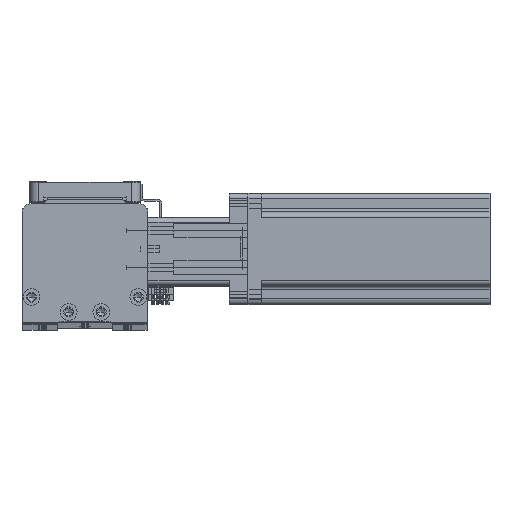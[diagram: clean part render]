
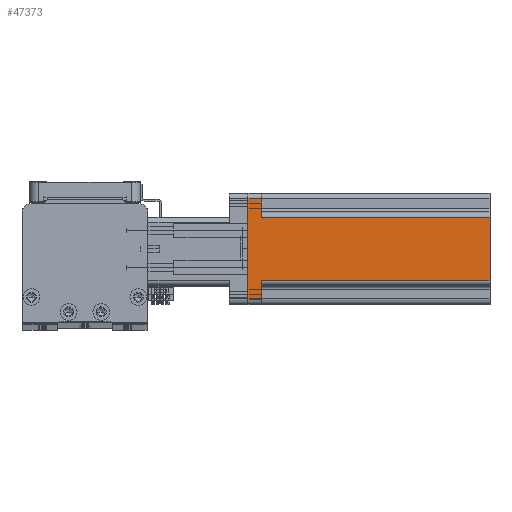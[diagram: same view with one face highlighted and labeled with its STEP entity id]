
A CAD part, top view. The second image highlights one B-rep face of the part: STEP entity #47373.
In plain terms, the highlighted planar face has unit normal (0, 0, 1) as drawn and (1, 0, 0) by its records, which use the part's own axes.
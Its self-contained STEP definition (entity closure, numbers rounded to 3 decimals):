
#18 = CARTESIAN_POINT ( 'NONE',  ( 30., 27., 7.5 ) ) ;
#970 = DIRECTION ( 'NONE',  ( 0., 0., 1. ) ) ;
#2747 = DIRECTION ( 'NONE',  ( 0., 0., -1. ) ) ;
#2847 = CARTESIAN_POINT ( 'NONE',  ( 30., 17., 7.5 ) ) ;
#3506 = CARTESIAN_POINT ( 'NONE',  ( 30., 17., 130.7 ) ) ;
#6947 = EDGE_CURVE ( 'NONE', #43163, #12546, #46088, .T. ) ;
#7365 = CARTESIAN_POINT ( 'NONE',  ( 30., -30., 7.5 ) ) ;
#7518 = CARTESIAN_POINT ( 'NONE',  ( 30., -30., 130.7 ) ) ;
#7696 = DIRECTION ( 'NONE',  ( 0., 1., 0. ) ) ;
#8213 = CARTESIAN_POINT ( 'NONE',  ( 30., -30., 130.7 ) ) ;
#9951 = CARTESIAN_POINT ( 'NONE',  ( 30., 27., 130.7 ) ) ;
#10870 = VECTOR ( 'NONE', #21778, 1000. ) ;
#12473 = DIRECTION ( 'NONE',  ( 0., 0., 1. ) ) ;
#12487 = VECTOR ( 'NONE', #7696, 1000. ) ;
#12546 = VERTEX_POINT ( 'NONE', #3506 ) ;
#13423 = DIRECTION ( 'NONE',  ( 0., 1., 0. ) ) ;
#13831 = VERTEX_POINT ( 'NONE', #2847 ) ;
#14289 = AXIS2_PLACEMENT_3D ( 'NONE', #8213, #37796, #12473 ) ;
#14338 = ORIENTED_EDGE ( 'NONE', *, *, #46950, .F. ) ;
#16555 = PLANE ( 'NONE',  #14289 ) ;
#17106 = FACE_OUTER_BOUND ( 'NONE', #36268, .T. ) ;
#17545 = CARTESIAN_POINT ( 'NONE',  ( 30., -17., 7.5 ) ) ;
#17610 = LINE ( 'NONE', #51506, #49863 ) ;
#18170 = VERTEX_POINT ( 'NONE', #48824 ) ;
#18846 = EDGE_CURVE ( 'NONE', #18170, #51867, #35566, .T. ) ;
#19964 = VERTEX_POINT ( 'NONE', #39564 ) ;
#20188 = LINE ( 'NONE', #9951, #28796 ) ;
#20385 = ORIENTED_EDGE ( 'NONE', *, *, #53382, .T. ) ;
#21007 = VERTEX_POINT ( 'NONE', #18 ) ;
#21078 = LINE ( 'NONE', #7365, #42190 ) ;
#21565 = VECTOR ( 'NONE', #13423, 1000. ) ;
#21778 = DIRECTION ( 'NONE',  ( 0., 0., -1. ) ) ;
#22470 = EDGE_CURVE ( 'NONE', #19964, #18170, #29331, .T. ) ;
#23282 = EDGE_CURVE ( 'NONE', #51867, #21007, #20188, .T. ) ;
#27803 = ORIENTED_EDGE ( 'NONE', *, *, #23282, .T. ) ;
#28796 = VECTOR ( 'NONE', #39501, 1000. ) ;
#29331 = LINE ( 'NONE', #53236, #39189 ) ;
#30155 = VERTEX_POINT ( 'NONE', #49186 ) ;
#30168 = EDGE_CURVE ( 'NONE', #30155, #19964, #21078, .T. ) ;
#32495 = DIRECTION ( 'NONE',  ( 0., -1., 0. ) ) ;
#32826 = LINE ( 'NONE', #42916, #21565 ) ;
#33382 = LINE ( 'NONE', #17545, #10870 ) ;
#33591 = ORIENTED_EDGE ( 'NONE', *, *, #49081, .T. ) ;
#33932 = ORIENTED_EDGE ( 'NONE', *, *, #18846, .T. ) ;
#35116 = CARTESIAN_POINT ( 'NONE',  ( 30., 27., 0. ) ) ;
#35480 = CARTESIAN_POINT ( 'NONE',  ( 30., -30., 0. ) ) ;
#35566 = LINE ( 'NONE', #35480, #44056 ) ;
#36268 = EDGE_LOOP ( 'NONE', ( #41421, #33591, #36612, #45777, #33932, #27803, #14338, #20385 ) ) ;
#36612 = ORIENTED_EDGE ( 'NONE', *, *, #30168, .T. ) ;
#37796 = DIRECTION ( 'NONE',  ( -1., 0., 0. ) ) ;
#39189 = VECTOR ( 'NONE', #2747, 1000. ) ;
#39501 = DIRECTION ( 'NONE',  ( 0., 0., 1. ) ) ;
#39564 = CARTESIAN_POINT ( 'NONE',  ( 30., -27., 7.5 ) ) ;
#39707 = CARTESIAN_POINT ( 'NONE',  ( 30., -17., 130.7 ) ) ;
#41421 = ORIENTED_EDGE ( 'NONE', *, *, #6947, .F. ) ;
#42190 = VECTOR ( 'NONE', #32495, 1000. ) ;
#42916 = CARTESIAN_POINT ( 'NONE',  ( 30., 30., 7.5 ) ) ;
#43163 = VERTEX_POINT ( 'NONE', #39707 ) ;
#43881 = DIRECTION ( 'NONE',  ( 0., 1., 0. ) ) ;
#44056 = VECTOR ( 'NONE', #43881, 1000. ) ;
#45777 = ORIENTED_EDGE ( 'NONE', *, *, #22470, .T. ) ;
#46088 = LINE ( 'NONE', #7518, #12487 ) ;
#46950 = EDGE_CURVE ( 'NONE', #13831, #21007, #32826, .T. ) ;
#47373 = ADVANCED_FACE ( 'NONE', ( #17106 ), #16555, .F. ) ;
#48824 = CARTESIAN_POINT ( 'NONE',  ( 30., -27., 0. ) ) ;
#49081 = EDGE_CURVE ( 'NONE', #43163, #30155, #33382, .T. ) ;
#49186 = CARTESIAN_POINT ( 'NONE',  ( 30., -17., 7.5 ) ) ;
#49863 = VECTOR ( 'NONE', #970, 1000. ) ;
#51506 = CARTESIAN_POINT ( 'NONE',  ( 30., 17., 130.7 ) ) ;
#51867 = VERTEX_POINT ( 'NONE', #35116 ) ;
#53236 = CARTESIAN_POINT ( 'NONE',  ( 30., -27., 130.7 ) ) ;
#53382 = EDGE_CURVE ( 'NONE', #13831, #12546, #17610, .T. ) ;
